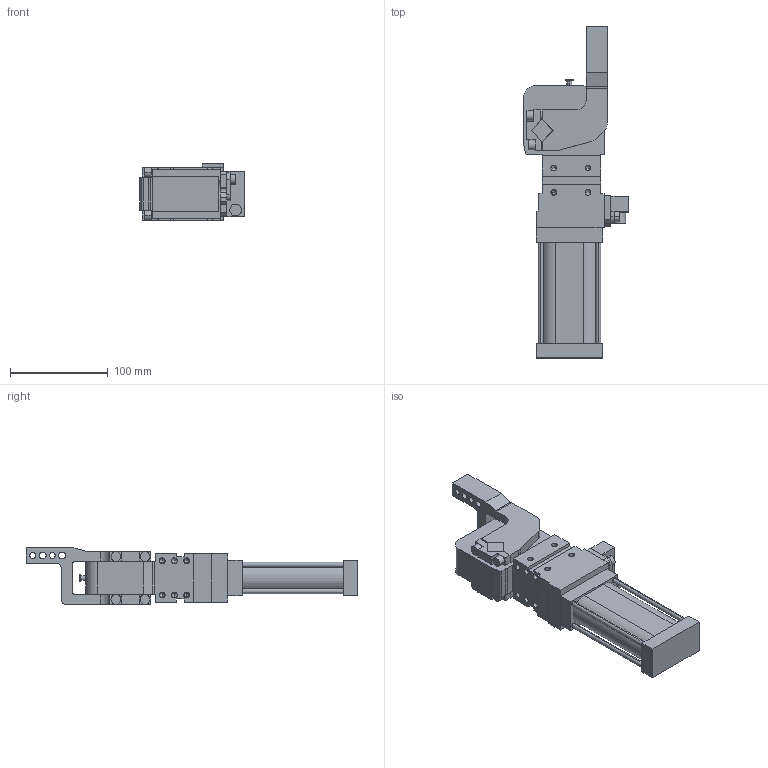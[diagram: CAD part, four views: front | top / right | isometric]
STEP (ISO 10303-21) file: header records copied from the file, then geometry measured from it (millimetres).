
FILE_DESCRIPTION (( 'STEP AP214' ), '1' );
FILE_NAME ('cpl40h3ssi1g_16.STEP', '2021-05-25T10:49:47', ( '' ), ( '' ), 'SwSTEP 2.0', 'SolidWorks 2021', '' );
FILE_SCHEMA (( 'AUTOMOTIVE_DESIGN' ));
Length unit declared in the file: millimetre
Products named in the file (5): cpl40h3ssi1g_16; blocchetto_VEP_0_cpl40; meccanica_cpl40; leva_v3s_cpl40; piastra_blocchetto_cpl40
Assembly tree (4 placements, depth 2):
  cpl40h3ssi1g_16
    meccanica_cpl40
    blocchetto_VEP_0_cpl40
    piastra_blocchetto_cpl40
    leva_v3s_cpl40
Bounding box: 107.5 x 340 x 58 mm (x, y, z)
Volume: 792032 mm3; surface area: 122330.3 mm2
Topology: 5 solids, 5 shells, 417 faces, 1067 edges, 667 vertices
Faces by surface type: plane 220, cylinder 149, cone 48
Entity records: 13886 total; most frequent: DIRECTION 2197, CARTESIAN_POINT 2112, ORIENTED_EDGE 2042, EDGE_CURVE 1021, AXIS2_PLACEMENT_3D 752, VECTOR 693, LINE 693, VERTEX_POINT 667
